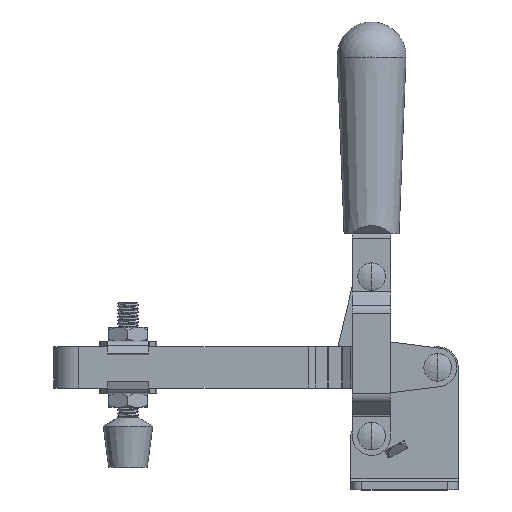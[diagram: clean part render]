
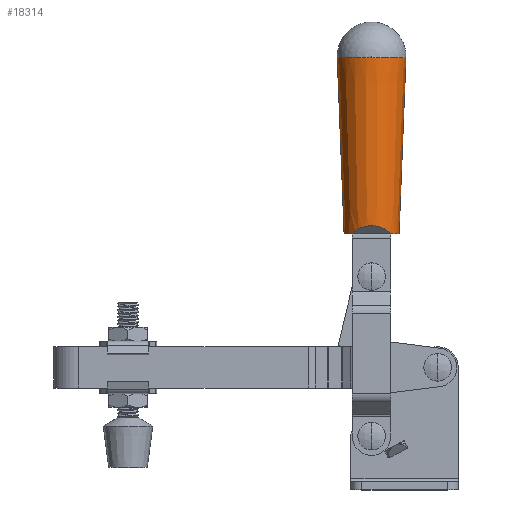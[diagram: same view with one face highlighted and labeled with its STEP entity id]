
A CAD part, top view. The second image highlights one B-rep face of the part: STEP entity #18314.
In plain terms, the highlighted conical face has half-angle 2.228 degrees and reference radius 10 mm.
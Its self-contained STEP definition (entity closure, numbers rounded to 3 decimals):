
#47 = CIRCLE ( 'NONE', #2128, 12.491 ) ;
#607 = CARTESIAN_POINT ( 'NONE',  ( 7.141, 73.5, 7. ) ) ;
#919 = ORIENTED_EDGE ( 'NONE', *, *, #6038, .T. ) ;
#1308 = CARTESIAN_POINT ( 'NONE',  ( 0., 73.5, 0. ) ) ;
#1698 = FACE_OUTER_BOUND ( 'NONE', #8455, .T. ) ;
#2128 = AXIS2_PLACEMENT_3D ( 'NONE', #16755, #7887, #18243 ) ;
#2499 = CARTESIAN_POINT ( 'NONE',  ( -7.141, 73.5, 7. ) ) ;
#2531 = CIRCLE ( 'NONE', #12981, 10. ) ;
#2797 = DIRECTION ( 'NONE',  ( -1., 0., 0. ) ) ;
#3116 = DIRECTION ( 'NONE',  ( -1., 0., 0. ) ) ;
#3721 = DIRECTION ( 'NONE',  ( 0., 1., 0. ) ) ;
#4356 = ORIENTED_EDGE ( 'NONE', *, *, #16366, .T. ) ;
#4511 = VECTOR ( 'NONE', #14263, 1000. ) ;
#4841 = ORIENTED_EDGE ( 'NONE', *, *, #18958, .F. ) ;
#5126 = ORIENTED_EDGE ( 'NONE', *, *, #7164, .F. ) ;
#5438 = CARTESIAN_POINT ( 'NONE',  ( 10., 73.5, 0. ) ) ;
#5472 = CARTESIAN_POINT ( 'NONE',  ( 3.025, 77.771, 11.437 ) ) ;
#6038 = EDGE_CURVE ( 'NONE', #9405, #11407, #2531, .T. ) ;
#6677 = AXIS2_PLACEMENT_3D ( 'NONE', #1308, #11651, #2797 ) ;
#7164 = EDGE_CURVE ( 'NONE', #11929, #9990, #11534, .T. ) ;
#7624 = CARTESIAN_POINT ( 'NONE',  ( 12.491, 137.514, 0. ) ) ;
#7887 = DIRECTION ( 'NONE',  ( 0., 1., 0. ) ) ;
#8075 = VECTOR ( 'NONE', #18156, 1000. ) ;
#8426 = LINE ( 'NONE', #5438, #4511 ) ;
#8455 = EDGE_LOOP ( 'NONE', ( #919, #17051, #4841, #5126, #4356, #18820 ) ) ;
#8613 = CONICAL_SURFACE ( 'NONE', #9808, 10., 0.039 ) ;
#9405 = VERTEX_POINT ( 'NONE', #607 ) ;
#9808 = AXIS2_PLACEMENT_3D ( 'NONE', #16386, #11979, #3116 ) ;
#9875 = CARTESIAN_POINT ( 'NONE',  ( -10., 73.5, 0. ) ) ;
#9990 = VERTEX_POINT ( 'NONE', #12335 ) ;
#10742 = CARTESIAN_POINT ( 'NONE',  ( 10., 73.5, 0. ) ) ;
#11356 = CARTESIAN_POINT ( 'NONE',  ( -3.025, 77.771, 11.437 ) ) ;
#11407 = VERTEX_POINT ( 'NONE', #10742 ) ;
#11534 = LINE ( 'NONE', #16672, #8075 ) ;
#11651 = DIRECTION ( 'NONE',  ( 0., 1., 0. ) ) ;
#11929 = VERTEX_POINT ( 'NONE', #9875 ) ;
#11979 = DIRECTION ( 'NONE',  ( 0., 1., 0. ) ) ;
#12335 = CARTESIAN_POINT ( 'NONE',  ( -12.491, 137.514, 0. ) ) ;
#12584 = CARTESIAN_POINT ( 'NONE',  ( 0., 73.5, 0. ) ) ;
#12981 = AXIS2_PLACEMENT_3D ( 'NONE', #12584, #3721, #14070 ) ;
#13451 = EDGE_CURVE ( 'NONE', #16641, #9405, #15939, .T. ) ;
#14070 = DIRECTION ( 'NONE',  ( -1., 0., 0. ) ) ;
#14263 = DIRECTION ( 'NONE',  ( 0.039, 0.999, 0. ) ) ;
#15292 = CARTESIAN_POINT ( 'NONE',  ( -7.141, 73.5, 7. ) ) ;
#15830 = CARTESIAN_POINT ( 'NONE',  ( 7.141, 73.5, 7. ) ) ;
#15939 =( BOUNDED_CURVE ( )  B_SPLINE_CURVE ( 3, ( #2499, #11356, #5472, #15830 ),
 .UNSPECIFIED., .F., .F. ) 
 B_SPLINE_CURVE_WITH_KNOTS ( ( 4, 4 ),
 ( 5.461, 7.106 ),
 .UNSPECIFIED. ) 
 CURVE ( )  GEOMETRIC_REPRESENTATION_ITEM ( )  RATIONAL_B_SPLINE_CURVE ( ( 1., 0.787, 0.787, 1. ) ) 
 REPRESENTATION_ITEM ( '' )  );
#16227 = EDGE_CURVE ( 'NONE', #11407, #18777, #8426, .T. ) ;
#16366 = EDGE_CURVE ( 'NONE', #11929, #16641, #18850, .T. ) ;
#16386 = CARTESIAN_POINT ( 'NONE',  ( 0., 73.5, 0. ) ) ;
#16641 = VERTEX_POINT ( 'NONE', #15292 ) ;
#16672 = CARTESIAN_POINT ( 'NONE',  ( -10., 73.5, 0. ) ) ;
#16755 = CARTESIAN_POINT ( 'NONE',  ( 0., 137.514, 0. ) ) ;
#17051 = ORIENTED_EDGE ( 'NONE', *, *, #16227, .T. ) ;
#18156 = DIRECTION ( 'NONE',  ( -0.039, 0.999, 0. ) ) ;
#18243 = DIRECTION ( 'NONE',  ( -1., 0., 0. ) ) ;
#18314 = ADVANCED_FACE ( 'NONE', ( #1698 ), #8613, .T. ) ;
#18777 = VERTEX_POINT ( 'NONE', #7624 ) ;
#18820 = ORIENTED_EDGE ( 'NONE', *, *, #13451, .T. ) ;
#18850 = CIRCLE ( 'NONE', #6677, 10. ) ;
#18958 = EDGE_CURVE ( 'NONE', #9990, #18777, #47, .T. ) ;
